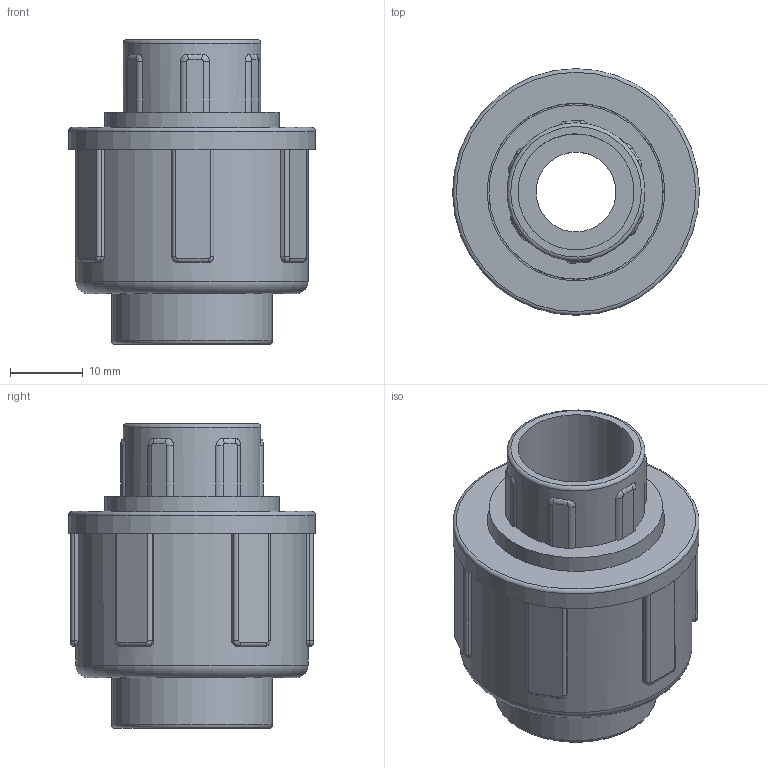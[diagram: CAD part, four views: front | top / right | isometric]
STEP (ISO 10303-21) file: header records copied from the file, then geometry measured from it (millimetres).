
FILE_DESCRIPTION(/* description */ (''),/* implementation_level */ '2;1');
FILE_NAME(/* name */ 'C:\Users\POLYPIPE\Desktop\DATASET INVENTOR\LIBRERIA EFFAST\3D_RACCORDI\RDR\3D_RDRBOD\3D_RDRBOD0160.stp',/* time_stamp */ '2018-01-22T10:21:04+01:00',/* author */ ('POLYPIPE'),/* organization */ (''),/* preprocessor_version */ 'ST-DEVELOPER v16.1',/* originating_system */ 'Autodesk Inventor 2016',/* authorisation */ '');
FILE_SCHEMA (('CONFIG_CONTROL_DESIGN'));
Length unit declared in the file: centimetre
Products named in the file (1): 3D_RDRBOD0160
Bounding box: 34 x 34 x 42 mm (x, y, z)
Volume: 18231.4 mm3; surface area: 10550.9 mm2
Topology: 1 solids, 1 shells, 128 faces, 324 edges, 207 vertices
Faces by surface type: cylinder 53, plane 41, bspline 30, torus 4
Full cylindrical faces by diameter (mm): 11 x1, 12 x1, 16 x2, 19 x1, 22.2 x1, 22.3 x1, 24 x1, 24.5 x1, 32 x1, 34 x1
Entity records: 4485 total; most frequent: CARTESIAN_POINT 1373, ORIENTED_EDGE 612, DIRECTION 606, EDGE_CURVE 306, AXIS2_PLACEMENT_3D 243, VERTEX_POINT 204, EDGE_LOOP 154, CIRCLE 144
